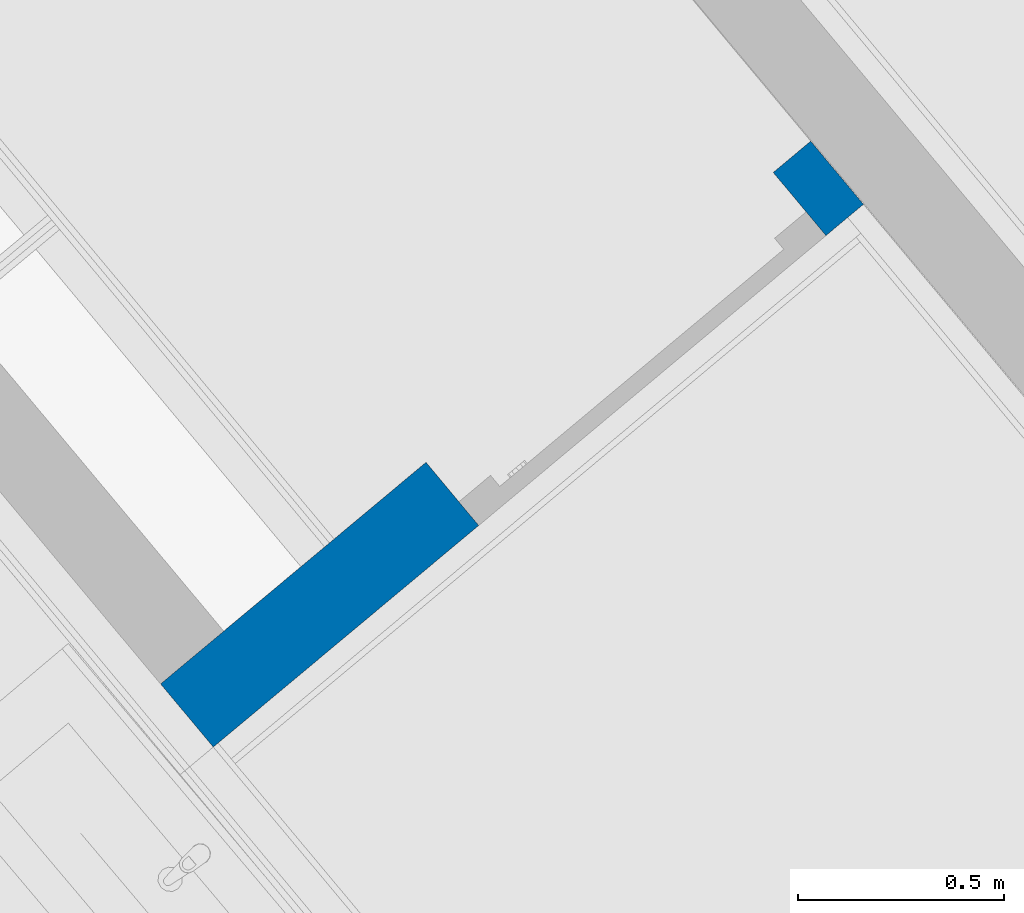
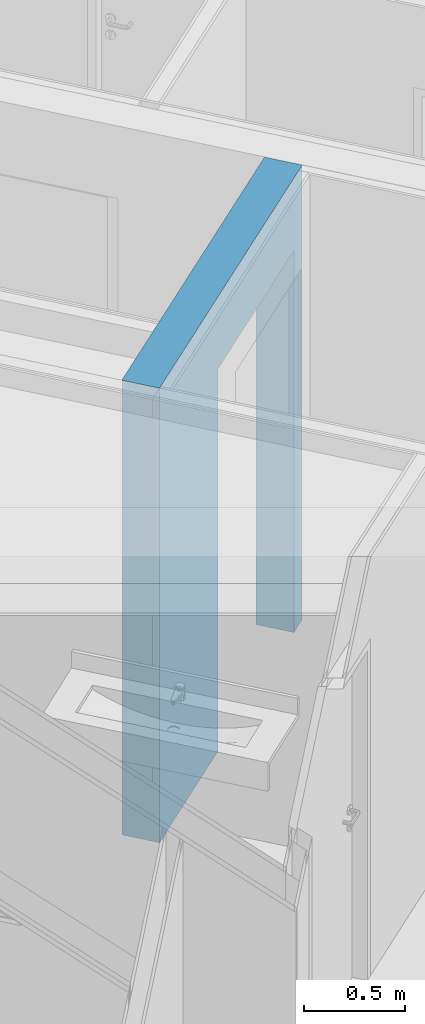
# One storey, part 8 of 61: 1 wall, 1 opening.
"""IFC4 building model written with IfcOpenShell, lengths in metres."""

from ifc_helpers import new_model, entity, si_unit, converted_unit, derived_unit, direction, frame, origin_with_axes, place, context, subcontext, project, spatial, polygons, material, type_object, element, save


model = new_model("IFC4")

# Units and contexts
model_context = context("Model", 3, precision=1e-05, world=origin_with_axes(), true_north=direction((0.0, 1.0)))
body_context = subcontext(model_context, "Body", "Model", "MODEL_VIEW")
ifc_project = project(units=[si_unit("LENGTHUNIT", "METRE"), si_unit("AREAUNIT", "SQUARE_METRE"), si_unit("VOLUMEUNIT", "CUBIC_METRE"), converted_unit("PLANEANGLEUNIT", "DEGREE", entity("IfcPlaneAngleMeasure", 0.0174532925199), si_unit("PLANEANGLEUNIT", "RADIAN"), dimensions=[0, 0, 0, 0, 0, 0, 0]), converted_unit("TIMEUNIT", "Year", entity("IfcTimeMeasure", 31556926.0), si_unit("TIMEUNIT", "SECOND"), dimensions=[0, 0, 1, 0, 0, 0, 0]), si_unit("MASSUNIT", "GRAM", prefix="KILO"), si_unit("THERMODYNAMICTEMPERATUREUNIT", "DEGREE_CELSIUS"), si_unit("LUMINOUSINTENSITYUNIT", "LUMEN"), si_unit("ENERGYUNIT", "JOULE", prefix="MEGA"), derived_unit("THERMALCONDUCTANCEUNIT", [(si_unit("POWERUNIT", "WATT"), 1), (si_unit("LENGTHUNIT", "METRE"), -1), (si_unit("THERMODYNAMICTEMPERATUREUNIT", "KELVIN"), -1)]), derived_unit("SPECIFICHEATCAPACITYUNIT", [(si_unit("ENERGYUNIT", "JOULE"), 1), (si_unit("MASSUNIT", "GRAM", prefix="KILO"), -1), (si_unit("THERMODYNAMICTEMPERATUREUNIT", "KELVIN"), -1)]), derived_unit("MASSDENSITYUNIT", [(si_unit("MASSUNIT", "GRAM", prefix="KILO"), 1), (si_unit("VOLUMEUNIT", "CUBIC_METRE"), -1)])], contexts=[model_context])

# Site, building, storey
site_placement = place(None, frame((-0.00153261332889, -0.00661245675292, 0.0), z_axis=(0.0, 0.0, 1.0), x_axis=(1.0, 0.0, 0.0)))
site = spatial("IfcSite", under=ifc_project, at=site_placement, Name="Gelände", CompositionType="ELEMENT")
building_placement = place(site_placement, origin_with_axes())
building = spatial("IfcBuilding", under=site, at=building_placement, Name="Gebäude", CompositionType="ELEMENT")
storey_placement = place(building_placement, frame((0.0, 0.0, 5.7), z_axis=(0.0, 0.0, 1.0), x_axis=(1.0, 0.0, 0.0)))
storey = spatial("IfcBuildingStorey", under=building, at=storey_placement, Name="DG1", CompositionType="ELEMENT", Elevation=5.7)

# Wall, opening
ifc_material = material(Name="Stahlbeton Wand")
wall_type = type_object("IfcWallType", Name="Stahlbeton Wand 200", PredefinedType="NOTDEFINED")
wall_placement = place(storey_placement, frame((3.23525106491, 22.230161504, 0.0), z_axis=(0.0, 0.0, 1.0), x_axis=(-0.767670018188, -0.640845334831, 0.0)))
wall = element("IfcWall", 1, at=wall_placement, inside=storey, type_object=wall_type, material=ifc_material, Name="Wand-003", PredefinedType="NOTDEFINED", context=body_context, shape_type="Tessellation", body=[
    polygons([(1.21873786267, -7.61218643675e-09, 0.22), (1.21873786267, -7.61218643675e-09, 2.32), (0.118737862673, -7.61218643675e-09, 2.32), (0.118737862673, 1.97544824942e-08, 0.22), (0.118737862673, 1.97544824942e-08, 0.0), (0.0, 0.0, 0.0), (0.0, 0.0, 2.76), (2.05944411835, 0.0, 2.76), (2.05944411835, 0.0, 0.0), (1.21873785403, -7.61218643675e-09, 0.0), (1.21873786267, -0.075, 0.22), (1.21873786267, -0.075, 2.32), (0.118737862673, -0.075, 2.32), (0.118737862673, -0.075, 0.22), (0.118737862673, -0.2, 0.22), (0.118737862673, -0.2, 0.0), (0.0, -0.2, 0.0), (0.0, -0.2, 2.76), (2.05953901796, -0.2, 2.76), (2.05953901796, -0.2, 0.0), (1.2187378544, -0.2, 0.0), (1.21873786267, -0.2, 0.22), (1.21873786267, -0.2, 2.32), (0.118737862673, -0.2, 2.32)], [[[1, 2, 3, 4, 5, 6, 7, 8, 9, 10]], [[2, 1, 11, 12]], [[3, 2, 12, 13]], [[4, 3, 13, 14]], [[4, 14, 15, 16, 5]], [[16, 17, 6, 5]], [[17, 18, 7, 6]], [[19, 8, 7, 18]], [[8, 19, 20, 9]], [[10, 9, 20, 21]], [[11, 1, 10, 21, 22]], [[12, 11, 22, 23]], [[13, 12, 23, 24]], [[14, 13, 24, 15]], [[16, 15, 24, 23, 22, 21, 20, 19, 18, 17]]], closed=True),
])
opening_placement = place(wall_placement, frame((0.668737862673, 0.0, 0.22), z_axis=(0.0, 0.0, 1.0), x_axis=(1.0, 0.0, 0.0)))
element("IfcOpeningElement", 2, at=opening_placement, cuts=wall, Name="Tür-001", context=body_context, identifier="Reference", shape_type="Tessellation", body=[
    polygons([(0.55, -0.075, -0.22), (0.55, -0.075, 2.1), (0.55, -1.2141594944, 2.1), (0.55, -1.2141594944, -0.22), (0.55, 1.0141594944, -0.22), (0.55, 1.0141594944, 2.1), (-0.55, -0.075, 2.1), (-0.55, -1.2141594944, 2.1), (-0.55, 1.0141594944, 2.1), (-0.55, -1.2141594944, -0.22), (-0.55, -0.075, -0.22), (-0.55, 1.0141594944, -0.22)], [[[1, 2, 3, 4]], [[2, 1, 5, 6]], [[7, 8, 3, 2, 6, 9]], [[8, 10, 4, 3]], [[1, 4, 10, 11, 12, 5]], [[6, 5, 12, 9]], [[7, 11, 10, 8]], [[11, 7, 9, 12]]], closed=True),
])

save(model, "model.ifc")
